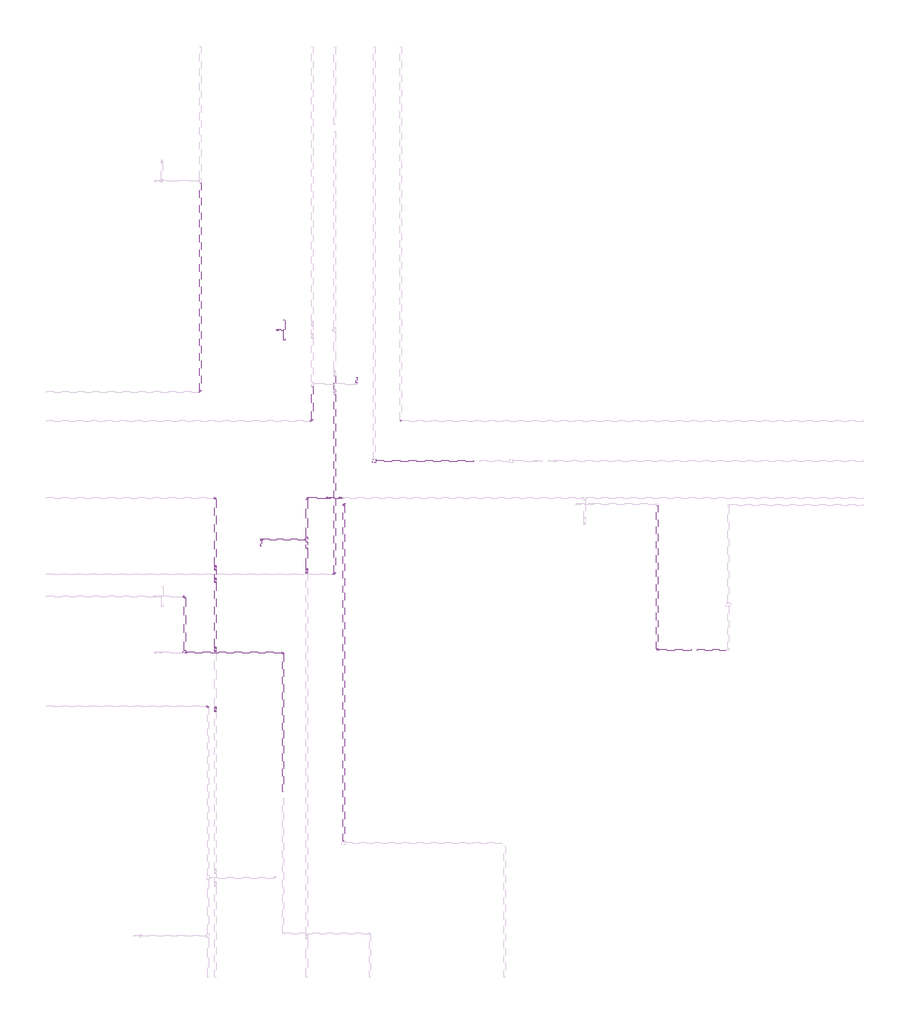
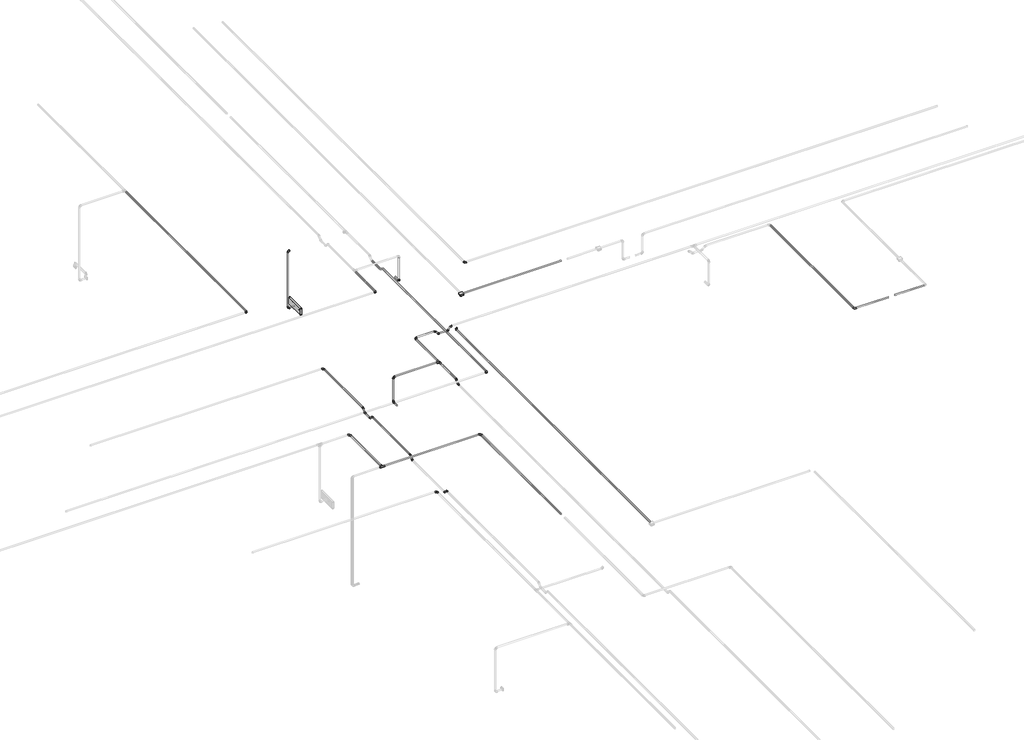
# One storey, part 24 of 40: 35 cable carrier segments, 32 cable carrier fittings, 2 alarms.
"""IFC4 building model written with IfcOpenShell, lengths in millimetres."""

from ifc_helpers import new_model, si_unit, point, frame, frame_2d, origin, place, context, project, spatial, circle_curve, trimmed, segment, composite_curve, outline, extrude, transform, mapped, element, save
from components import alarm_4b7e8fd8, alarm_a2247946, cable_carrier_fitting_69f1a801, cable_carrier_fitting_8122f9af, cable_carrier_fitting_60a48a8b, cable_carrier_fitting_8fd13dfc

model = new_model("IFC4")

# Units and contexts
model_context = context("Model", 3, world=origin())
ifc_project = project(units=[si_unit("LENGTHUNIT", "METRE", prefix="MILLI")], contexts=[model_context])

# Site, building, storey
site = spatial("IfcSite", under=ifc_project)
building = spatial("IfcBuilding", under=site)
storey = spatial("IfcBuildingStorey", under=building, Name="1 этаж", Elevation=0.0)

# Alarms
placement = place(None, origin())
alarm_shape = alarm_4b7e8fd8(model_context)
element("IfcAlarm", 1, ObjectType="RBZ_Оповещатель_Световой_Рубеж_ОПОП1-R3(грань) : ОПОП 1-R3 \"Выход\"", at=placement, inside=storey, context=model_context, shape_type="MappedRepresentation", body=[
    mapped(alarm_shape, transform((-14402.3240021, 7047.1370105, 2300.0), x_axis=(0.0, 1.0, 0.0), y_axis=(0.0, 0.0, 1.0), z_axis=(1.0, 0.0, 0.0))),
])
alarm_2_shape = alarm_a2247946(model_context)
element("IfcAlarm", 2, ObjectType="RBZ_ИзоляторШлейфа_Рубеж_ИЗ-1_прот.R3(плоскость) : ИЗ-1 прот.R3", at=placement, inside=storey, context=model_context, shape_type="MappedRepresentation", body=[
    mapped(alarm_2_shape, transform((-13072.3240021, 5122.1370105, 3200.05), x_axis=(1.0, 0.0, 0.0), y_axis=(0.0, 1.0, 0.0), z_axis=(0.0, 0.0, 1.0))),
])

# Cable carrier fittings
cable_carrier_fitting_shape = cable_carrier_fitting_69f1a801(model_context)
element("IfcCableCarrierFitting", 3, ObjectType="ADSK_Поворот_Минимальный размер : Неспецифицируемый", at=placement, inside=storey, context=model_context, shape_type="MappedRepresentation", body=[
    mapped(cable_carrier_fitting_shape, transform((-14409.8240021, 2314.6370105, 3189.2705868), x_axis=(0.0, 1.0, 0.0), y_axis=(-1.0, 0.0, 0.0), z_axis=(0.0, 0.0, 1.0))),
])
element("IfcCableCarrierFitting", 4, ObjectType="ADSK_Поворот_Минимальный размер : Неспецифицируемый", at=placement, inside=storey, context=model_context, shape_type="MappedRepresentation", body=[
    mapped(cable_carrier_fitting_shape, transform((-8918.8240021, 2348.1370105, 3190.0000856), x_axis=(0.0, -1.0, 0.0), y_axis=(1.0, 0.0, 0.0), z_axis=(0.0, 0.0, 1.0))),
])
element("IfcCableCarrierFitting", 5, ObjectType="ADSK_Поворот_Минимальный размер : Неспецифицируемый", at=placement, inside=storey, context=model_context, shape_type="MappedRepresentation", body=[
    mapped(cable_carrier_fitting_shape, transform((-15622.3240021, 6137.38701, 3187.0), x_axis=(1.0, 0.0, 0.0), y_axis=(0.0, 1.0, 0.0), z_axis=(0.0, 0.0, 1.0))),
])
element("IfcCableCarrierFitting", 6, ObjectType="ADSK_Поворот_Минимальный размер : Неспецифицируемый", at=placement, inside=storey, context=model_context, shape_type="MappedRepresentation", body=[
    mapped(cable_carrier_fitting_shape, transform((-13329.8240021, 6252.4372049, 2797.4861504), x_axis=(0.0, -1.0, 0.0), y_axis=(0.0, 0.0, 1.0), z_axis=(-1.0, 0.0, 0.0))),
])
element("IfcCableCarrierFitting", 7, ObjectType="ADSK_Поворот_Минимальный размер : Неспецифицируемый", at=placement, inside=storey, context=model_context, shape_type="MappedRepresentation", body=[
    mapped(cable_carrier_fitting_shape, transform((-12682.3240021, 5709.6370105, 3180.0), x_axis=(0.0, -1.0, 0.0), y_axis=(1.0, 0.0, 0.0), z_axis=(0.0, 0.0, 1.0))),
])
element("IfcCableCarrierFitting", 8, ObjectType="ADSK_Поворот_Минимальный размер : Неспецифицируемый", at=placement, inside=storey, context=model_context, shape_type="MappedRepresentation", body=[
    mapped(cable_carrier_fitting_shape, transform((-14499.5238077, 7047.1370105, 2300.0), x_axis=(-1.0, 0.0, 0.0), y_axis=(0.0, 0.0, 1.0), z_axis=(0.0, 1.0, 0.0))),
])
element("IfcCableCarrierFitting", 9, ObjectType="ADSK_Поворот_Минимальный размер : Неспецифицируемый", at=placement, inside=storey, context=model_context, shape_type="MappedRepresentation", body=[
    mapped(cable_carrier_fitting_shape, transform((-15852.3240021, 3137.1370105, 3189.2705868), x_axis=(0.0, 1.0, 0.0), y_axis=(-0.999999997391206, 0.0, 7.223287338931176e-05), z_axis=(7.223287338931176e-05, 0.0, 0.999999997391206))),
])
element("IfcCableCarrierFitting", 10, ObjectType="ADSK_Поворот_Минимальный размер : Неспецифицируемый", at=placement, inside=storey, context=model_context, shape_type="MappedRepresentation", body=[
    mapped(cable_carrier_fitting_shape, transform((-13652.3240113, 3462.1370308, 3189.3323031), x_axis=(1.0, 0.0, 0.0), y_axis=(0.0, 0.9999999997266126, 2.3383216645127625e-05), z_axis=(0.0, -2.3383216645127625e-05, 0.9999999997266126))),
])
element("IfcCableCarrierFitting", 11, ObjectType="ADSK_Поворот_Минимальный размер : Неспецифицируемый", at=placement, inside=storey, context=model_context, shape_type="MappedRepresentation", body=[
    mapped(cable_carrier_fitting_shape, transform((-13519.8240031, 4494.6370105, 3189.9998553), x_axis=(-0.9999999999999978, 0.0, -6.732492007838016e-08), y_axis=(0.0, -1.0, 0.0), z_axis=(-6.732492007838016e-08, 0.0, 0.9999999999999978))),
])
element("IfcCableCarrierFitting", 12, ObjectType="ADSK_Поворот_Минимальный размер : Неспецифицируемый", at=placement, inside=storey, context=model_context, shape_type="MappedRepresentation", body=[
    mapped(cable_carrier_fitting_shape, transform((-15509.3240021, 1524.6370105, 3166.0), x_axis=(0.0, 1.0, 0.0), y_axis=(-1.0, 0.0, 0.0), z_axis=(0.0, 0.0, 1.0))),
])
element("IfcCableCarrierFitting", 13, ObjectType="ADSK_Поворот_Минимальный размер : Неспецифицируемый", at=placement, inside=storey, context=model_context, shape_type="MappedRepresentation", body=[
    mapped(cable_carrier_fitting_shape, transform((-14732.3240021, 3971.8368161, 2797.4861504), x_axis=(0.0, 1.0, 0.0), y_axis=(0.0, 0.0, 1.0), z_axis=(1.0, 0.0, 0.0))),
])
element("IfcCableCarrierFitting", 14, ObjectType="ADSK_Поворот_Минимальный размер : Неспецифицируемый", at=placement, inside=storey, context=model_context, shape_type="MappedRepresentation", body=[
    mapped(cable_carrier_fitting_shape, transform((-14732.3240021, 3971.8368161, 3180.0), x_axis=(0.0, 0.0, 1.0), y_axis=(1.0, 0.0, 0.0), z_axis=(0.0, 1.0, 0.0))),
])
element("IfcCableCarrierFitting", 15, ObjectType="ADSK_Поворот_Минимальный размер : Неспецифицируемый", at=placement, inside=storey, context=model_context, shape_type="MappedRepresentation", body=[
    mapped(cable_carrier_fitting_shape, transform((-14061.8509929, 4582.0648158, 3180.0), x_axis=(-1.0, 0.0, 0.0), y_axis=(0.0, -1.0, 0.0), z_axis=(0.0, 0.0, 1.0))),
])
element("IfcCableCarrierFitting", 16, ObjectType="ADSK_Поворот_Минимальный размер : Неспецифицируемый", at=placement, inside=storey, context=model_context, shape_type="MappedRepresentation", body=[
    mapped(cable_carrier_fitting_shape, transform((-15402.3240021, 4582.0798551, 3180.0), x_axis=(0.0, 1.0, 0.0), y_axis=(-1.0, 0.0, 0.0), z_axis=(0.0, 0.0, 1.0))),
])
element("IfcCableCarrierFitting", 17, ObjectType="ADSK_Поворот_Минимальный размер : Неспецифицируемый", at=placement, inside=storey, context=model_context, shape_type="MappedRepresentation", body=[
    mapped(cable_carrier_fitting_shape, transform((-13982.3240021, 5709.6370105, 3180.0), x_axis=(1.0, 0.0, 0.0), y_axis=(0.0, 1.0, 0.0), z_axis=(0.0, 0.0, 1.0))),
])
cable_carrier_fitting_2_shape = cable_carrier_fitting_8122f9af(model_context)
element("IfcCableCarrierFitting", 18, ObjectType="ADSK_Поворот_Минимальный размер : Неспецифицируемый", at=placement, inside=storey, context=model_context, shape_type="MappedRepresentation", body=[
    mapped(cable_carrier_fitting_2_shape, transform((-15402.3240021, 1504.6370105, 3130.0), x_axis=(0.0, 0.7071067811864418, -0.7071067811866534), y_axis=(0.0, 0.7071067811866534, 0.7071067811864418), z_axis=(1.0, 0.0, 0.0))),
])
element("IfcCableCarrierFitting", 19, ObjectType="ADSK_Поворот_Минимальный размер : Неспецифицируемый", at=placement, inside=storey, context=model_context, shape_type="MappedRepresentation", body=[
    mapped(cable_carrier_fitting_2_shape, transform((-15402.3240021, 2334.6370105, 3130.0), x_axis=(0.0, 1.0, 0.0), y_axis=(0.0, 0.0, 1.0), z_axis=(1.0, 0.0, 0.0))),
])
element("IfcCableCarrierFitting", 20, ObjectType="ADSK_Поворот_Минимальный размер : Неспецифицируемый", at=placement, inside=storey, context=model_context, shape_type="MappedRepresentation", body=[
    mapped(cable_carrier_fitting_2_shape, transform((-15402.3240021, 2384.6370105, 3180.0), x_axis=(0.0, 0.7071067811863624, 0.7071067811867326), y_axis=(0.0, 0.7071067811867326, -0.7071067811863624), z_axis=(-1.0, 0.0, 0.0))),
])
element("IfcCableCarrierFitting", 21, ObjectType="ADSK_Поворот_Минимальный размер : Неспецифицируемый", at=placement, inside=storey, context=model_context, shape_type="MappedRepresentation", body=[
    mapped(cable_carrier_fitting_2_shape, transform((-15402.3240021, 3345.5647595, 3180.0), x_axis=(0.0, 1.0, 0.0), y_axis=(0.0, 0.0, -1.0), z_axis=(-1.0, 0.0, 0.0))),
])
element("IfcCableCarrierFitting", 22, ObjectType="ADSK_Поворот_Минимальный размер : Неспецифицируемый", at=placement, inside=storey, context=model_context, shape_type="MappedRepresentation", body=[
    mapped(cable_carrier_fitting_2_shape, transform((-15402.3240021, 3395.5647595, 3130.0), x_axis=(0.0, 0.7071067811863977, -0.7071067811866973), y_axis=(0.0, 0.7071067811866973, 0.7071067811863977), z_axis=(1.0, 0.0, 0.0))),
])
element("IfcCableCarrierFitting", 23, ObjectType="ADSK_Поворот_Минимальный размер : Неспецифицируемый", at=placement, inside=storey, context=model_context, shape_type="MappedRepresentation", body=[
    mapped(cable_carrier_fitting_2_shape, transform((-15402.3240021, 3528.709302, 3130.0), x_axis=(0.0, 1.0, 0.0), y_axis=(0.0, 0.0, 1.0), z_axis=(1.0, 0.0, 0.0))),
])
element("IfcCableCarrierFitting", 24, ObjectType="ADSK_Поворот_Минимальный размер : Неспецифицируемый", at=placement, inside=storey, context=model_context, shape_type="MappedRepresentation", body=[
    mapped(cable_carrier_fitting_2_shape, transform((-13535.75174, 4582.0648158, 3180.0), x_axis=(-1.0, 0.0, 0.0), y_axis=(0.0, 0.0, -1.0), z_axis=(0.0, -1.0, 0.0))),
])
element("IfcCableCarrierFitting", 25, ObjectType="ADSK_Поворот_Минимальный размер : Неспецифицируемый", at=placement, inside=storey, context=model_context, shape_type="MappedRepresentation", body=[
    mapped(cable_carrier_fitting_2_shape, transform((-13585.75174, 4582.0648158, 3130.0), x_axis=(-0.7071067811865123, 0.0, -0.7071067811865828), y_axis=(-0.7071067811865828, 0.0, 0.7071067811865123), z_axis=(0.0, 1.0, 0.0))),
])
element("IfcCableCarrierFitting", 26, ObjectType="ADSK_Поворот_Минимальный размер : Неспецифицируемый", at=placement, inside=storey, context=model_context, shape_type="MappedRepresentation", body=[
    mapped(cable_carrier_fitting_2_shape, transform((-13718.8962825, 4582.0648158, 3130.0), x_axis=(-1.0, 0.0, 0.0), y_axis=(0.0, 0.0, 1.0), z_axis=(0.0, 1.0, 0.0))),
])
element("IfcCableCarrierFitting", 27, ObjectType="ADSK_Поворот_Минимальный размер : Неспецифицируемый", at=placement, inside=storey, context=model_context, shape_type="MappedRepresentation", body=[
    mapped(cable_carrier_fitting_2_shape, transform((-15402.3240021, 1454.6370105, 3180.0), x_axis=(0.0, -0.7071067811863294, 0.7071067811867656), y_axis=(0.0, -0.7071067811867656, -0.7071067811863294), z_axis=(1.0, 0.0, 0.0))),
])
element("IfcCableCarrierFitting", 28, ObjectType="ADSK_Поворот_Минимальный размер : Неспецифицируемый", at=placement, inside=storey, context=model_context, shape_type="MappedRepresentation", body=[
    mapped(cable_carrier_fitting_2_shape, transform((-14061.8509929, 3532.1370308, 3180.0), x_axis=(0.0, -1.0, 0.0), y_axis=(0.0, 0.0, -1.0), z_axis=(1.0, 0.0, 0.0))),
])
element("IfcCableCarrierFitting", 29, ObjectType="ADSK_Поворот_Минимальный размер : Неспецифицируемый", at=placement, inside=storey, context=model_context, shape_type="MappedRepresentation", body=[
    mapped(cable_carrier_fitting_2_shape, transform((-14061.8509929, 3482.1370308, 3130.0), x_axis=(0.0, -0.7071067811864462, -0.7071067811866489), y_axis=(0.0, -0.7071067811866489, 0.7071067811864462), z_axis=(-1.0, 0.0, 0.0))),
])
element("IfcCableCarrierFitting", 30, ObjectType="ADSK_Поворот_Минимальный размер : Неспецифицируемый", at=placement, inside=storey, context=model_context, shape_type="MappedRepresentation", body=[
    mapped(cable_carrier_fitting_2_shape, transform((-13768.8962825, 4582.0648158, 3180.0), x_axis=(-0.7071067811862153, 0.0, 0.7071067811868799), y_axis=(-0.7071067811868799, 0.0, -0.7071067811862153), z_axis=(0.0, -1.0, 0.0))),
])
element("IfcCableCarrierFitting", 31, ObjectType="ADSK_Поворот_Минимальный размер : Неспецифицируемый", at=placement, inside=storey, context=model_context, shape_type="MappedRepresentation", body=[
    mapped(cable_carrier_fitting_2_shape, transform((-15402.3240021, 3578.709302, 3180.0), x_axis=(0.0, 0.707106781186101, 0.7071067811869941), y_axis=(0.0, 0.7071067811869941, -0.707106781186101), z_axis=(-1.0, 0.0, 0.0))),
])
cable_carrier_fitting_3_shape = cable_carrier_fitting_60a48a8b(model_context)
element("IfcCableCarrierFitting", 32, ObjectType="ADSK_Поворот_Минимальный размер : Неспецифицируемый", at=placement, inside=storey, context=model_context, shape_type="MappedRepresentation", body=[
    mapped(cable_carrier_fitting_3_shape, transform((-14499.5238077, 7047.1370105, 3189.2999743), x_axis=(0.0, 0.0, 1.0), y_axis=(0.9999999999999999, 2.191917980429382e-08, 0.0), z_axis=(-2.191917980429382e-08, 0.9999999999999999, 0.0))),
])
cable_carrier_fitting_4_shape = cable_carrier_fitting_8fd13dfc(model_context)
element("IfcCableCarrierFitting", 33, ObjectType="ADSK_Тройник : ПВХ", at=placement, inside=storey, context=model_context, shape_type="MappedRepresentation", body=[
    mapped(cable_carrier_fitting_4_shape, transform((-15852.3240021, 2314.6370105, 3189.2705868), x_axis=(-1.0, 0.0, 0.0), y_axis=(0.0, -1.0, 0.0), z_axis=(0.0, 0.0, 1.0))),
])
element("IfcCableCarrierFitting", 34, ObjectType="ADSK_Тройник : ПВХ", at=placement, inside=storey, context=model_context, shape_type="MappedRepresentation", body=[
    mapped(cable_carrier_fitting_4_shape, transform((-14061.8509929, 3971.8368551, 3180.0), x_axis=(0.0, -1.0, 0.0), y_axis=(1.0, 0.0, 0.0), z_axis=(0.0, 0.0, 1.0))),
])

# Cable carrier segments
element("IfcCableCarrierSegment", 35, ObjectType="Гофрированная труба", at=placement, inside=storey, context=model_context, shape_type="SweptSolid", body=[
    extrude(outline(composite_curve([segment(trimmed(circle_curve(frame_2d((3189.2705868, -14409.8240021)), 10.0), [point((3189.2705868, -14399.8240021))], [point((3199.2705868, -14409.8240021))], False, "CARTESIAN"), True, "CONTINUOUS"), segment(trimmed(circle_curve(frame_2d((3189.2705868, -14409.8240021)), 10.0), [point((3199.2705868, -14409.8240021))], [point((3189.2705868, -14419.8240021))], False, "CARTESIAN"), True, "CONTINUOUS"), segment(trimmed(circle_curve(frame_2d((3189.2705868, -14409.8240021)), 10.0), [point((3189.2705868, -14419.8240021))], [point((3179.2705868, -14409.8240021))], False, "CARTESIAN"), True, "CONTINUOUS"), segment(trimmed(circle_curve(frame_2d((3189.2705868, -14409.8240021)), 10.0), [point((3179.2705868, -14409.8240021))], [point((3189.2705868, -14399.8240021))], False, "CARTESIAN"), True, "CONTINUOUS")], self_intersect=False)), frame((0.0, 271.1370105, 0.0), z_axis=(0.0, 1.0, 0.0), x_axis=(0.0, 0.0, 1.0)), (0.0, 0.0, 1.0), 2022.5),
])
element("IfcCableCarrierSegment", 36, ObjectType="Гофрированная труба", at=placement, inside=storey, context=model_context, shape_type="SweptSolid", body=[
    extrude(outline(composite_curve([segment(trimmed(circle_curve(frame_2d((2314.6370105, 3189.2705868)), 10.0), [point((2324.6370105, 3189.2705868))], [point((2314.6370105, 3179.2705868))], False, "CARTESIAN"), True, "CONTINUOUS"), segment(trimmed(circle_curve(frame_2d((2314.6370105, 3189.2705868)), 10.0), [point((2314.6370105, 3179.2705868))], [point((2304.6370105, 3189.2705868))], False, "CARTESIAN"), True, "CONTINUOUS"), segment(trimmed(circle_curve(frame_2d((2314.6370105, 3189.2705868)), 10.0), [point((2304.6370105, 3189.2705868))], [point((2314.6370105, 3199.2705868))], False, "CARTESIAN"), True, "CONTINUOUS"), segment(trimmed(circle_curve(frame_2d((2314.6370105, 3189.2705868)), 10.0), [point((2314.6370105, 3199.2705868))], [point((2324.6370105, 3189.2705868))], False, "CARTESIAN"), True, "CONTINUOUS")], self_intersect=False)), frame((-15822.3240021, 0.0, 0.0), z_axis=(1.0, 0.0, 0.0), x_axis=(0.0, 1.0, 0.0)), (0.0, 0.0, 1.0), 1391.5),
])
element("IfcCableCarrierSegment", 37, ObjectType="Гофрированная труба", at=placement, inside=storey, context=model_context, shape_type="SweptSolid", body=[
    extrude(outline(composite_curve([segment(trimmed(circle_curve(frame_2d((3189.2705868, -15852.3240021)), 10.0), [point((3189.2705868, -15862.3240021))], [point((3179.2705868, -15852.3240021))], False, "CARTESIAN"), True, "CONTINUOUS"), segment(trimmed(circle_curve(frame_2d((3189.2705868, -15852.3240021)), 10.0), [point((3179.2705868, -15852.3240021))], [point((3189.2705868, -15842.3240021))], False, "CARTESIAN"), True, "CONTINUOUS"), segment(trimmed(circle_curve(frame_2d((3189.2705868, -15852.3240021)), 10.0), [point((3189.2705868, -15842.3240021))], [point((3199.2705868, -15852.3240021))], False, "CARTESIAN"), True, "CONTINUOUS"), segment(trimmed(circle_curve(frame_2d((3189.2705868, -15852.3240021)), 10.0), [point((3199.2705868, -15852.3240021))], [point((3189.2705868, -15862.3240021))], False, "CARTESIAN"), True, "CONTINUOUS")], self_intersect=False)), frame((0.0, 2344.6370105, 0.0), z_axis=(0.0, 1.0, 0.0), x_axis=(0.0, 0.0, 1.0)), (0.0, 0.0, 1.0), 771.5),
])
element("IfcCableCarrierSegment", 38, ObjectType="Гофрированная труба", at=placement, inside=storey, context=model_context, shape_type="SweptSolid", body=[
    extrude(outline(composite_curve([segment(trimmed(circle_curve(frame_2d((3189.9998553, -13519.8240031)), 10.0), [point((3189.9998553, -13529.8240031))], [point((3179.9998553, -13519.8240031))], False, "CARTESIAN"), True, "CONTINUOUS"), segment(trimmed(circle_curve(frame_2d((3189.9998553, -13519.8240031)), 10.0), [point((3179.9998553, -13519.8240031))], [point((3189.9998553, -13509.8240031))], False, "CARTESIAN"), True, "CONTINUOUS"), segment(trimmed(circle_curve(frame_2d((3189.9998553, -13519.8240031)), 10.0), [point((3189.9998553, -13509.8240031))], [point((3199.9998553, -13519.8240031))], False, "CARTESIAN"), True, "CONTINUOUS"), segment(trimmed(circle_curve(frame_2d((3189.9998553, -13519.8240031)), 10.0), [point((3199.9998553, -13519.8240031))], [point((3189.9998553, -13529.8240031))], False, "CARTESIAN"), True, "CONTINUOUS")], self_intersect=False)), frame((0.0, -454.3629895, 0.0), z_axis=(0.0, 1.0, 0.0), x_axis=(0.0, 0.0, 1.0)), (0.0, 0.0, 1.0), 4928.0),
])
element("IfcCableCarrierSegment", 39, ObjectType="Гофрированная труба", at=placement, inside=storey, context=model_context, shape_type="SweptSolid", body=[
    extrude(outline(composite_curve([segment(trimmed(circle_curve(frame_2d((0.0, -10.0)), 10.0), [point((0.0, -20.0))], [point((-10.0000001, -10.0))], False, "CARTESIAN"), True, "CONTINUOUS"), segment(trimmed(circle_curve(frame_2d((0.0, -10.0)), 10.0), [point((-10.0000001, -10.0))], [point((0.0, 0.0))], False, "CARTESIAN"), True, "CONTINUOUS"), segment(trimmed(circle_curve(frame_2d((0.0, -10.0)), 10.0), [point((0.0, 0.0))], [point((10.0, -10.0))], False, "CARTESIAN"), True, "CONTINUOUS"), segment(trimmed(circle_curve(frame_2d((0.0, -10.0)), 10.0), [point((10.0, -10.0))], [point((0.0, -20.0))], False, "CARTESIAN"), True, "CONTINUOUS")], self_intersect=False)), frame((-13662.3240113, 6376.4323701, 3139.5699368), z_axis=(0.0, -0.999998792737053, 0.0015538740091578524), x_axis=(0.0, 0.0015538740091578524, 0.999998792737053)), (0.0, 0.0, 1.0), 204.0853758),
])
element("IfcCableCarrierSegment", 40, ObjectType="Гофрированная труба", at=placement, inside=storey, context=model_context, shape_type="SweptSolid", body=[
    extrude(outline(composite_curve([segment(trimmed(circle_curve(frame_2d((2348.1370105, 3190.0000856)), 10.0), [point((2358.1370105, 3190.0000856))], [point((2348.1370105, 3180.0000856))], False, "CARTESIAN"), True, "CONTINUOUS"), segment(trimmed(circle_curve(frame_2d((2348.1370105, 3190.0000856)), 10.0), [point((2348.1370105, 3180.0000856))], [point((2338.1370105, 3190.0000856))], False, "CARTESIAN"), True, "CONTINUOUS"), segment(trimmed(circle_curve(frame_2d((2348.1370105, 3190.0000856)), 10.0), [point((2338.1370105, 3190.0000856))], [point((2348.1370105, 3200.0000856))], False, "CARTESIAN"), True, "CONTINUOUS"), segment(trimmed(circle_curve(frame_2d((2348.1370105, 3190.0000856)), 10.0), [point((2348.1370105, 3200.0000856))], [point((2358.1370105, 3190.0000856))], False, "CARTESIAN"), True, "CONTINUOUS")], self_intersect=False)), frame((-8897.8240021, 0.0, 0.0), z_axis=(1.0, 0.0, 0.0), x_axis=(0.0, 1.0, 0.0)), (0.0, 0.0, 1.0), 479.0),
])
element("IfcCableCarrierSegment", 41, ObjectType="Гофрированная труба", at=placement, inside=storey, context=model_context, shape_type="SweptSolid", body=[
    extrude(outline(composite_curve([segment(trimmed(circle_curve(frame_2d((3190.0000856, -8918.8240021)), 10.0), [point((3190.0000856, -8908.8240021))], [point((3200.0000856, -8918.8240021))], False, "CARTESIAN"), True, "CONTINUOUS"), segment(trimmed(circle_curve(frame_2d((3190.0000856, -8918.8240021)), 10.0), [point((3200.0000856, -8918.8240021))], [point((3190.0000856, -8928.8240021))], False, "CARTESIAN"), True, "CONTINUOUS"), segment(trimmed(circle_curve(frame_2d((3190.0000856, -8918.8240021)), 10.0), [point((3190.0000856, -8928.8240021))], [point((3180.0000856, -8918.8240021))], False, "CARTESIAN"), True, "CONTINUOUS"), segment(trimmed(circle_curve(frame_2d((3190.0000856, -8918.8240021)), 10.0), [point((3180.0000856, -8918.8240021))], [point((3190.0000856, -8908.8240021))], False, "CARTESIAN"), True, "CONTINUOUS")], self_intersect=False)), frame((0.0, 2369.1370105, 0.0), z_axis=(0.0, 1.0, 0.0), x_axis=(0.0, 0.0, 1.0)), (0.0, 0.0, 1.0), 2104.5),
])
element("IfcCableCarrierSegment", 42, ObjectType="Гофрированная труба", at=placement, inside=storey, context=model_context, shape_type="SweptSolid", body=[
    extrude(outline(composite_curve([segment(trimmed(circle_curve(frame_2d((2348.1370105, 3190.0000856)), 10.0), [point((2338.1370105, 3190.0000856))], [point((2348.1370105, 3200.0000856))], False, "CARTESIAN"), True, "CONTINUOUS"), segment(trimmed(circle_curve(frame_2d((2348.1370105, 3190.0000856)), 10.0), [point((2348.1370105, 3200.0000856))], [point((2358.1370105, 3190.0000856))], False, "CARTESIAN"), True, "CONTINUOUS"), segment(trimmed(circle_curve(frame_2d((2348.1370105, 3190.0000856)), 10.0), [point((2358.1370105, 3190.0000856))], [point((2348.1370105, 3180.0000856))], False, "CARTESIAN"), True, "CONTINUOUS"), segment(trimmed(circle_curve(frame_2d((2348.1370105, 3190.0000856)), 10.0), [point((2348.1370105, 3180.0000856))], [point((2338.1370105, 3190.0000856))], False, "CARTESIAN"), True, "CONTINUOUS")], self_intersect=False)), frame((-8325.8240021, 0.0, 0.0), z_axis=(1.0, 0.0, 0.0), x_axis=(0.0, 1.0, 0.0)), (0.0, 0.0, 1.0), 432.4999035),
])
element("IfcCableCarrierSegment", 43, ObjectType="Гофрированная труба", at=placement, inside=storey, context=model_context, shape_type="SweptSolid", body=[
    extrude(outline(composite_curve([segment(trimmed(circle_curve(frame_2d((5122.1370105, 3189.3)), 10.0), [point((5132.1370105, 3189.3))], [point((5122.1370105, 3179.3))], False, "CARTESIAN"), True, "CONTINUOUS"), segment(trimmed(circle_curve(frame_2d((5122.1370105, 3189.3)), 10.0), [point((5122.1370105, 3179.3))], [point((5112.1370105, 3189.3))], False, "CARTESIAN"), True, "CONTINUOUS"), segment(trimmed(circle_curve(frame_2d((5122.1370105, 3189.3)), 10.0), [point((5112.1370105, 3189.3))], [point((5122.1370105, 3199.3))], False, "CARTESIAN"), True, "CONTINUOUS"), segment(trimmed(circle_curve(frame_2d((5122.1370105, 3189.3)), 10.0), [point((5122.1370105, 3199.3))], [point((5132.1370105, 3189.3))], False, "CARTESIAN"), True, "CONTINUOUS")], self_intersect=False)), frame((-13046.3240021, 0.0, 0.0), z_axis=(1.0, 0.0, 0.0), x_axis=(0.0, 1.0, 0.0)), (0.0, 0.0, 1.0), 1435.0),
])
element("IfcCableCarrierSegment", 44, ObjectType="Гофрированная труба", at=placement, inside=storey, context=model_context, shape_type="SweptSolid", body=[
    extrude(outline(composite_curve([segment(trimmed(circle_curve(frame_2d((2797.4861504, -13329.8240021)), 10.0), [point((2797.4861504, -13339.8240021))], [point((2787.4861504, -13329.8240021))], False, "CARTESIAN"), True, "CONTINUOUS"), segment(trimmed(circle_curve(frame_2d((2797.4861504, -13329.8240021)), 10.0), [point((2787.4861504, -13329.8240021))], [point((2797.4861504, -13319.8240021))], False, "CARTESIAN"), True, "CONTINUOUS"), segment(trimmed(circle_curve(frame_2d((2797.4861504, -13329.8240021)), 10.0), [point((2797.4861504, -13319.8240021))], [point((2807.4861504, -13329.8240021))], False, "CARTESIAN"), True, "CONTINUOUS"), segment(trimmed(circle_curve(frame_2d((2797.4861504, -13329.8240021)), 10.0), [point((2807.4861504, -13329.8240021))], [point((2797.4861504, -13339.8240021))], False, "CARTESIAN"), True, "CONTINUOUS")], self_intersect=False)), frame((0.0, 6273.4372049, 0.0), z_axis=(0.0, 1.0, 0.0), x_axis=(0.0, 0.0, 1.0)), (0.0, 0.0, 1.0), 76.1998056),
])
element("IfcCableCarrierSegment", 45, ObjectType="Гофрированная труба", at=placement, inside=storey, context=model_context, shape_type="SweptSolid", body=[
    extrude(outline(composite_curve([segment(trimmed(circle_curve(frame_2d((-13329.8240021, 6252.4372049)), 10.0), [point((-13339.8240021, 6252.4372049))], [point((-13329.8240021, 6262.4372049))], False, "CARTESIAN"), True, "CONTINUOUS"), segment(trimmed(circle_curve(frame_2d((-13329.8240021, 6252.4372049)), 10.0), [point((-13329.8240021, 6262.4372049))], [point((-13319.8240021, 6252.4372049))], False, "CARTESIAN"), True, "CONTINUOUS"), segment(trimmed(circle_curve(frame_2d((-13329.8240021, 6252.4372049)), 10.0), [point((-13319.8240021, 6252.4372049))], [point((-13329.8240021, 6242.4372049))], False, "CARTESIAN"), True, "CONTINUOUS"), segment(trimmed(circle_curve(frame_2d((-13329.8240021, 6252.4372049)), 10.0), [point((-13329.8240021, 6242.4372049))], [point((-13339.8240021, 6252.4372049))], False, "CARTESIAN"), True, "CONTINUOUS")], self_intersect=False)), frame((0.0, 0.0, 2818.4861504), z_axis=(0.0, 0.0, 1.0), x_axis=(1.0, 0.0, 0.0)), (0.0, 0.0, 1.0), 340.5138496),
])
element("IfcCableCarrierSegment", 46, ObjectType="Гофрированная труба", at=placement, inside=storey, context=model_context, shape_type="SweptSolid", body=[
    extrude(outline(composite_curve([segment(trimmed(circle_curve(frame_2d((0.0, -10.0)), 10.0), [point((0.0, 0.0))], [point((10.0, -10.0))], False, "CARTESIAN"), True, "CONTINUOUS"), segment(trimmed(circle_curve(frame_2d((0.0, -10.0)), 10.0), [point((10.0, -10.0))], [point((0.0, -20.0))], False, "CARTESIAN"), True, "CONTINUOUS"), segment(trimmed(circle_curve(frame_2d((0.0, -10.0)), 10.0), [point((0.0, -20.0))], [point((-10.0, -10.0))], False, "CARTESIAN"), True, "CONTINUOUS"), segment(trimmed(circle_curve(frame_2d((0.0, -10.0)), 10.0), [point((-10.0, -10.0))], [point((0.0, 0.0))], False, "CARTESIAN"), True, "CONTINUOUS")], self_intersect=False)), frame((-13662.3240113, 3483.1370307, 3189.3327942), z_axis=(0.0, 0.9999999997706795, 2.141590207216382e-05), x_axis=(0.0, 2.141590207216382e-05, -0.9999999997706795)), (0.0, 0.0, 1.0), 2621.1719162),
])
element("IfcCableCarrierSegment", 47, ObjectType="Гофрированная труба", at=placement, inside=storey, context=model_context, shape_type="SweptSolid", body=[
    extrude(outline(composite_curve([segment(trimmed(circle_curve(frame_2d((0.0, -10.0)), 10.0), [point((10.0, -10.0))], [point((0.0, -20.0))], False, "CARTESIAN"), True, "CONTINUOUS"), segment(trimmed(circle_curve(frame_2d((0.0, -10.0)), 10.0), [point((0.0, -20.0))], [point((-10.0, -10.0))], False, "CARTESIAN"), True, "CONTINUOUS"), segment(trimmed(circle_curve(frame_2d((0.0, -10.0)), 10.0), [point((-10.0, -10.0))], [point((0.0, 0.0))], False, "CARTESIAN"), True, "CONTINUOUS"), segment(trimmed(circle_curve(frame_2d((0.0, -10.0)), 10.0), [point((0.0, 0.0))], [point((10.0, -10.0))], False, "CARTESIAN"), True, "CONTINUOUS")], self_intersect=False)), frame((-13652.3240113, 6163.6001448, 3153.5246284), z_axis=(0.0, -0.707106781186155, 0.7071067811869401), x_axis=(1.0, 0.0, 0.0)), (0.0, 0.0, 1.0), 51.435542),
])
element("IfcCableCarrierSegment", 48, ObjectType="Гофрированная труба", at=placement, inside=storey, context=model_context, shape_type="SweptSolid", body=[
    extrude(outline(composite_curve([segment(trimmed(circle_curve(frame_2d((4582.0648158, 3130.0)), 10.0), [point((4592.0648158, 3130.0))], [point((4582.0648158, 3120.0))], False, "CARTESIAN"), True, "CONTINUOUS"), segment(trimmed(circle_curve(frame_2d((4582.0648158, 3130.0)), 10.0), [point((4582.0648158, 3120.0))], [point((4572.0648158, 3130.0))], False, "CARTESIAN"), True, "CONTINUOUS"), segment(trimmed(circle_curve(frame_2d((4582.0648158, 3130.0)), 10.0), [point((4572.0648158, 3130.0))], [point((4582.0648158, 3140.0))], False, "CARTESIAN"), True, "CONTINUOUS"), segment(trimmed(circle_curve(frame_2d((4582.0648158, 3130.0)), 10.0), [point((4582.0648158, 3140.0))], [point((4592.0648158, 3130.0))], False, "CARTESIAN"), True, "CONTINUOUS")], self_intersect=False)), frame((-13709.6120113, 0.0, 0.0), z_axis=(1.0, 0.0, 0.0), x_axis=(0.0, 1.0, 0.0)), (0.0, 0.0, 1.0), 114.576),
])
element("IfcCableCarrierSegment", 49, ObjectType="Гофрированная труба", at=placement, inside=storey, context=model_context, shape_type="SweptSolid", body=[
    extrude(outline(composite_curve([segment(trimmed(circle_curve(frame_2d((0.0, -10.0)), 10.0), [point((10.0, -10.0))], [point((0.0, -20.0))], False, "CARTESIAN"), True, "CONTINUOUS"), segment(trimmed(circle_curve(frame_2d((0.0, -10.0)), 10.0), [point((0.0, -20.0))], [point((-10.0, -10.0))], False, "CARTESIAN"), True, "CONTINUOUS"), segment(trimmed(circle_curve(frame_2d((0.0, -10.0)), 10.0), [point((-10.0, -10.0))], [point((0.0, 0.0))], False, "CARTESIAN"), True, "CONTINUOUS"), segment(trimmed(circle_curve(frame_2d((0.0, -10.0)), 10.0), [point((0.0, 0.0))], [point((10.0, -10.0))], False, "CARTESIAN"), True, "CONTINUOUS")], self_intersect=False)), frame((-15402.3240021, 1505.1431072, 3143.636039), z_axis=(0.0, -0.7071067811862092, 0.707106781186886), x_axis=(1.0, 0.0, 0.0)), (0.0, 0.0, 1.0), 52.1421356),
])
element("IfcCableCarrierSegment", 50, ObjectType="Гофрированная труба", at=placement, inside=storey, context=model_context, shape_type="SweptSolid", body=[
    extrude(outline(composite_curve([segment(trimmed(circle_curve(frame_2d((3130.0, -15402.3240021)), 10.0), [point((3130.0, -15392.3240021))], [point((3140.0, -15402.3240021))], False, "CARTESIAN"), True, "CONTINUOUS"), segment(trimmed(circle_curve(frame_2d((3130.0, -15402.3240021)), 10.0), [point((3140.0, -15402.3240021))], [point((3130.0, -15412.3240021))], False, "CARTESIAN"), True, "CONTINUOUS"), segment(trimmed(circle_curve(frame_2d((3130.0, -15402.3240021)), 10.0), [point((3130.0, -15412.3240021))], [point((3120.0, -15402.3240021))], False, "CARTESIAN"), True, "CONTINUOUS"), segment(trimmed(circle_curve(frame_2d((3130.0, -15402.3240021)), 10.0), [point((3120.0, -15402.3240021))], [point((3130.0, -15392.3240021))], False, "CARTESIAN"), True, "CONTINUOUS")], self_intersect=False)), frame((0.0, 3404.8490308, 0.0), z_axis=(0.0, 1.0, 0.0), x_axis=(0.0, 0.0, 1.0)), (0.0, 0.0, 1.0), 114.576),
])
element("IfcCableCarrierSegment", 51, ObjectType="Гофрированная труба", at=placement, inside=storey, context=model_context, shape_type="SweptSolid", body=[
    extrude(outline(composite_curve([segment(trimmed(circle_curve(frame_2d((0.0, 10.0)), 10.0), [point((10.0, 10.0))], [point((0.0, 0.0))], False, "CARTESIAN"), True, "CONTINUOUS"), segment(trimmed(circle_curve(frame_2d((0.0, 10.0)), 10.0), [point((0.0, 0.0))], [point((-10.0, 10.0))], False, "CARTESIAN"), True, "CONTINUOUS"), segment(trimmed(circle_curve(frame_2d((0.0, 10.0)), 10.0), [point((-10.0, 10.0))], [point((0.0, 20.0))], False, "CARTESIAN"), True, "CONTINUOUS"), segment(trimmed(circle_curve(frame_2d((0.0, 10.0)), 10.0), [point((0.0, 20.0))], [point((10.0, 10.0))], False, "CARTESIAN"), True, "CONTINUOUS")], self_intersect=False)), frame((-15402.3240021, 2334.1309139, 3143.636039), z_axis=(0.0, 0.7071067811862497, 0.7071067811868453), x_axis=(1.0, 0.0, 0.0)), (0.0, 0.0, 1.0), 52.1421356),
])
element("IfcCableCarrierSegment", 52, ObjectType="Гофрированная труба", at=placement, inside=storey, context=model_context, shape_type="SweptSolid", body=[
    extrude(outline(composite_curve([segment(trimmed(circle_curve(frame_2d((3180.0, -15402.3240021)), 10.0), [point((3180.0, -15392.3240021))], [point((3190.0, -15402.3240021))], False, "CARTESIAN"), True, "CONTINUOUS"), segment(trimmed(circle_curve(frame_2d((3180.0, -15402.3240021)), 10.0), [point((3190.0, -15402.3240021))], [point((3180.0, -15412.3240021))], False, "CARTESIAN"), True, "CONTINUOUS"), segment(trimmed(circle_curve(frame_2d((3180.0, -15402.3240021)), 10.0), [point((3180.0, -15412.3240021))], [point((3170.0, -15402.3240021))], False, "CARTESIAN"), True, "CONTINUOUS"), segment(trimmed(circle_curve(frame_2d((3180.0, -15402.3240021)), 10.0), [point((3170.0, -15402.3240021))], [point((3180.0, -15392.3240021))], False, "CARTESIAN"), True, "CONTINUOUS")], self_intersect=False)), frame((0.0, 2393.9212818, 0.0), z_axis=(0.0, 1.0, 0.0), x_axis=(0.0, 0.0, 1.0)), (0.0, 0.0, 1.0), 942.3592065),
])
element("IfcCableCarrierSegment", 53, ObjectType="Гофрированная труба", at=placement, inside=storey, context=model_context, shape_type="SweptSolid", body=[
    extrude(outline(composite_curve([segment(trimmed(circle_curve(frame_2d((0.0, -10.0000001)), 10.0), [point((10.0, -10.0000001))], [point((0.0, -20.0000001))], False, "CARTESIAN"), True, "CONTINUOUS"), segment(trimmed(circle_curve(frame_2d((0.0, -10.0000001)), 10.0), [point((0.0, -20.0000001))], [point((-10.0, -10.0000001))], False, "CARTESIAN"), True, "CONTINUOUS"), segment(trimmed(circle_curve(frame_2d((0.0, -10.0000001)), 10.0), [point((-10.0, -10.0000001))], [point((0.0, 0.0))], False, "CARTESIAN"), True, "CONTINUOUS"), segment(trimmed(circle_curve(frame_2d((0.0, -10.0000001)), 10.0), [point((0.0, 0.0))], [point((10.0, -10.0000001))], False, "CARTESIAN"), True, "CONTINUOUS")], self_intersect=False)), frame((-15402.3240021, 3396.0708562, 3143.636039), z_axis=(0.0, -0.7071067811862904, 0.7071067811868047), x_axis=(1.0, 0.0, 0.0)), (0.0, 0.0, 1.0), 52.1421356),
])
element("IfcCableCarrierSegment", 54, ObjectType="Гофрированная труба", at=placement, inside=storey, context=model_context, shape_type="SweptSolid", body=[
    extrude(outline(composite_curve([segment(trimmed(circle_curve(frame_2d((3180.0, -15402.3240021)), 10.0), [point((3180.0, -15392.3240021))], [point((3190.0, -15402.3240021))], False, "CARTESIAN"), True, "CONTINUOUS"), segment(trimmed(circle_curve(frame_2d((3180.0, -15402.3240021)), 10.0), [point((3190.0, -15402.3240021))], [point((3180.0, -15412.3240021))], False, "CARTESIAN"), True, "CONTINUOUS"), segment(trimmed(circle_curve(frame_2d((3180.0, -15402.3240021)), 10.0), [point((3180.0, -15412.3240021))], [point((3170.0, -15402.3240021))], False, "CARTESIAN"), True, "CONTINUOUS"), segment(trimmed(circle_curve(frame_2d((3180.0, -15402.3240021)), 10.0), [point((3170.0, -15402.3240021))], [point((3180.0, -15392.3240021))], False, "CARTESIAN"), True, "CONTINUOUS")], self_intersect=False)), frame((0.0, 3587.9935732, 0.0), z_axis=(0.0, 1.0, 0.0), x_axis=(0.0, 0.0, 1.0)), (0.0, 0.0, 1.0), 973.0862818),
])
element("IfcCableCarrierSegment", 55, ObjectType="Гофрированная труба", at=placement, inside=storey, context=model_context, shape_type="SweptSolid", body=[
    extrude(outline(composite_curve([segment(trimmed(circle_curve(frame_2d((0.0, 10.0000001)), 10.0), [point((10.0, 10.0000001))], [point((0.0, 0.0))], False, "CARTESIAN"), True, "CONTINUOUS"), segment(trimmed(circle_curve(frame_2d((0.0, 10.0000001)), 10.0), [point((0.0, 0.0))], [point((-10.0, 10.0000001))], False, "CARTESIAN"), True, "CONTINUOUS"), segment(trimmed(circle_curve(frame_2d((0.0, 10.0000001)), 10.0), [point((-10.0, 10.0000001))], [point((0.0, 20.0000001))], False, "CARTESIAN"), True, "CONTINUOUS"), segment(trimmed(circle_curve(frame_2d((0.0, 10.0000001)), 10.0), [point((0.0, 20.0000001))], [point((10.0, 10.0000001))], False, "CARTESIAN"), True, "CONTINUOUS")], self_intersect=False)), frame((-15402.3240021, 3528.2032053, 3143.636039), z_axis=(0.0, 0.707106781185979, 0.707106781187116), x_axis=(1.0, 0.0, 0.0)), (0.0, 0.0, 1.0), 52.1421356),
])
element("IfcCableCarrierSegment", 56, ObjectType="Гофрированная труба", at=placement, inside=storey, context=model_context, shape_type="SweptSolid", body=[
    extrude(outline(composite_curve([segment(trimmed(circle_curve(frame_2d((0.0, -10.0)), 10.0), [point((0.0, 0.0))], [point((10.0000001, -10.0))], False, "CARTESIAN"), True, "CONTINUOUS"), segment(trimmed(circle_curve(frame_2d((0.0, -10.0)), 10.0), [point((10.0000001, -10.0))], [point((0.0, -20.0))], False, "CARTESIAN"), True, "CONTINUOUS"), segment(trimmed(circle_curve(frame_2d((0.0, -10.0)), 10.0), [point((0.0, -20.0))], [point((-10.0, -10.0))], False, "CARTESIAN"), True, "CONTINUOUS"), segment(trimmed(circle_curve(frame_2d((0.0, -10.0)), 10.0), [point((-10.0, -10.0))], [point((0.0, 0.0))], False, "CARTESIAN"), True, "CONTINUOUS")], self_intersect=False)), frame((-13579.1867689, 4592.0648158, 3136.5649712), z_axis=(0.7071067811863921, 0.0, 0.707106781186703), x_axis=(0.707106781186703, 0.0, -0.7071067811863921)), (0.0, 0.0, 1.0), 52.1421356),
])
element("IfcCableCarrierSegment", 57, ObjectType="Гофрированная труба", at=placement, inside=storey, context=model_context, shape_type="SweptSolid", body=[
    extrude(outline(composite_curve([segment(trimmed(circle_curve(frame_2d((4582.0648158, 3180.0)), 10.0), [point((4592.0648158, 3180.0))], [point((4582.0648158, 3170.0))], False, "CARTESIAN"), True, "CONTINUOUS"), segment(trimmed(circle_curve(frame_2d((4582.0648158, 3180.0)), 10.0), [point((4582.0648158, 3170.0))], [point((4572.0648158, 3180.0))], False, "CARTESIAN"), True, "CONTINUOUS"), segment(trimmed(circle_curve(frame_2d((4582.0648158, 3180.0)), 10.0), [point((4572.0648158, 3180.0))], [point((4582.0648158, 3190.0))], False, "CARTESIAN"), True, "CONTINUOUS"), segment(trimmed(circle_curve(frame_2d((4582.0648158, 3180.0)), 10.0), [point((4582.0648158, 3190.0))], [point((4592.0648158, 3180.0))], False, "CARTESIAN"), True, "CONTINUOUS")], self_intersect=False)), frame((-14040.8509929, 0.0, 0.0), z_axis=(1.0, 0.0, 0.0), x_axis=(0.0, 1.0, 0.0)), (0.0, 0.0, 1.0), 262.6704391),
])
element("IfcCableCarrierSegment", 58, ObjectType="Гофрированная труба", at=placement, inside=storey, context=model_context, shape_type="SweptSolid", body=[
    extrude(outline(composite_curve([segment(trimmed(circle_curve(frame_2d((0.0, 10.0)), 10.0), [point((0.0, 20.0))], [point((10.0, 10.0))], False, "CARTESIAN"), True, "CONTINUOUS"), segment(trimmed(circle_curve(frame_2d((0.0, 10.0)), 10.0), [point((10.0, 10.0))], [point((0.0, 0.0))], False, "CARTESIAN"), True, "CONTINUOUS"), segment(trimmed(circle_curve(frame_2d((0.0, 10.0)), 10.0), [point((0.0, 0.0))], [point((-10.0000001, 10.0))], False, "CARTESIAN"), True, "CONTINUOUS"), segment(trimmed(circle_curve(frame_2d((0.0, 10.0)), 10.0), [point((-10.0000001, 10.0))], [point((0.0, 20.0))], False, "CARTESIAN"), True, "CONTINUOUS")], self_intersect=False)), frame((-13725.4612537, 4572.0648158, 3136.5649712), z_axis=(-0.7071067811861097, 0.0, 0.7071067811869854), x_axis=(0.7071067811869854, 0.0, 0.7071067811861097)), (0.0, 0.0, 1.0), 52.1421356),
])
element("IfcCableCarrierSegment", 59, ObjectType="Гофрированная труба", at=placement, inside=storey, context=model_context, shape_type="SweptSolid", body=[
    extrude(outline(composite_curve([segment(trimmed(circle_curve(frame_2d((7047.1370105, 2300.0)), 10.0), [point((7057.1370105, 2300.0))], [point((7047.1370105, 2290.0))], False, "CARTESIAN"), True, "CONTINUOUS"), segment(trimmed(circle_curve(frame_2d((7047.1370105, 2300.0)), 10.0), [point((7047.1370105, 2290.0))], [point((7037.1370105, 2300.0))], False, "CARTESIAN"), True, "CONTINUOUS"), segment(trimmed(circle_curve(frame_2d((7047.1370105, 2300.0)), 10.0), [point((7037.1370105, 2300.0))], [point((7047.1370105, 2310.0))], False, "CARTESIAN"), True, "CONTINUOUS"), segment(trimmed(circle_curve(frame_2d((7047.1370105, 2300.0)), 10.0), [point((7047.1370105, 2310.0))], [point((7057.1370105, 2300.0))], False, "CARTESIAN"), True, "CONTINUOUS")], self_intersect=False)), frame((-14478.5238077, 0.0, 0.0), z_axis=(1.0, 0.0, 0.0), x_axis=(0.0, 1.0, 0.0)), (0.0, 0.0, 1.0), 76.1998056),
])
element("IfcCableCarrierSegment", 60, ObjectType="Гофрированная труба", at=placement, inside=storey, context=model_context, shape_type="SweptSolid", body=[
    extrude(outline(composite_curve([segment(trimmed(circle_curve(frame_2d((-14499.5238077, 7047.1370105)), 10.0), [point((-14509.5238077, 7047.1370105))], [point((-14499.5238077, 7057.1370105))], False, "CARTESIAN"), True, "CONTINUOUS"), segment(trimmed(circle_curve(frame_2d((-14499.5238077, 7047.1370105)), 10.0), [point((-14499.5238077, 7057.1370105))], [point((-14489.5238077, 7047.1370105))], False, "CARTESIAN"), True, "CONTINUOUS"), segment(trimmed(circle_curve(frame_2d((-14499.5238077, 7047.1370105)), 10.0), [point((-14489.5238077, 7047.1370105))], [point((-14499.5238077, 7037.1370105))], False, "CARTESIAN"), True, "CONTINUOUS"), segment(trimmed(circle_curve(frame_2d((-14499.5238077, 7047.1370105)), 10.0), [point((-14499.5238077, 7037.1370105))], [point((-14509.5238077, 7047.1370105))], False, "CARTESIAN"), True, "CONTINUOUS")], self_intersect=False)), frame((0.0, 0.0, 2321.0), z_axis=(0.0, 0.0, 1.0), x_axis=(1.0, 0.0, 0.0)), (0.0, 0.0, 1.0), 847.2999988),
])
element("IfcCableCarrierSegment", 61, ObjectType="Гофрированная труба", at=placement, inside=storey, context=model_context, shape_type="SweptSolid", body=[
    extrude(outline(composite_curve([segment(trimmed(circle_curve(frame_2d((3187.0, -15622.3240021)), 10.0), [point((3187.0, -15612.3240021))], [point((3197.0, -15622.3240021))], False, "CARTESIAN"), True, "CONTINUOUS"), segment(trimmed(circle_curve(frame_2d((3187.0, -15622.3240021)), 10.0), [point((3197.0, -15622.3240021))], [point((3187.0, -15632.3240021))], False, "CARTESIAN"), True, "CONTINUOUS"), segment(trimmed(circle_curve(frame_2d((3187.0, -15622.3240021)), 10.0), [point((3187.0, -15632.3240021))], [point((3177.0, -15622.3240021))], False, "CARTESIAN"), True, "CONTINUOUS"), segment(trimmed(circle_curve(frame_2d((3187.0, -15622.3240021)), 10.0), [point((3177.0, -15622.3240021))], [point((3187.0, -15612.3240021))], False, "CARTESIAN"), True, "CONTINUOUS")], self_intersect=False)), frame((0.0, 6158.38701, 0.0), z_axis=(0.0, 1.0, 0.0), x_axis=(0.0, 0.0, 1.0)), (0.0, 0.0, 1.0), 3046.1037348),
])
element("IfcCableCarrierSegment", 62, ObjectType="Гофрированная труба", at=placement, inside=storey, context=model_context, shape_type="SweptSolid", body=[
    extrude(outline(composite_curve([segment(trimmed(circle_curve(frame_2d((2797.4861504, -14732.3240021)), 10.0), [point((2797.4861504, -14722.3240021))], [point((2807.4861504, -14732.3240021))], False, "CARTESIAN"), True, "CONTINUOUS"), segment(trimmed(circle_curve(frame_2d((2797.4861504, -14732.3240021)), 10.0), [point((2807.4861504, -14732.3240021))], [point((2797.4861504, -14742.3240021))], False, "CARTESIAN"), True, "CONTINUOUS"), segment(trimmed(circle_curve(frame_2d((2797.4861504, -14732.3240021)), 10.0), [point((2797.4861504, -14742.3240021))], [point((2787.4861504, -14732.3240021))], False, "CARTESIAN"), True, "CONTINUOUS"), segment(trimmed(circle_curve(frame_2d((2797.4861504, -14732.3240021)), 10.0), [point((2787.4861504, -14732.3240021))], [point((2797.4861504, -14722.3240021))], False, "CARTESIAN"), True, "CONTINUOUS")], self_intersect=False)), frame((0.0, 3874.6370105, 0.0), z_axis=(0.0, 1.0, 0.0), x_axis=(0.0, 0.0, 1.0)), (0.0, 0.0, 1.0), 76.1998056),
])
element("IfcCableCarrierSegment", 63, ObjectType="Гофрированная труба", at=placement, inside=storey, context=model_context, shape_type="SweptSolid", body=[
    extrude(outline(composite_curve([segment(trimmed(circle_curve(frame_2d((-14732.3240021, 3971.8368161)), 10.0), [point((-14742.3240021, 3971.8368161))], [point((-14732.3240021, 3981.8368161))], False, "CARTESIAN"), True, "CONTINUOUS"), segment(trimmed(circle_curve(frame_2d((-14732.3240021, 3971.8368161)), 10.0), [point((-14732.3240021, 3981.8368161))], [point((-14722.3240021, 3971.8368161))], False, "CARTESIAN"), True, "CONTINUOUS"), segment(trimmed(circle_curve(frame_2d((-14732.3240021, 3971.8368161)), 10.0), [point((-14722.3240021, 3971.8368161))], [point((-14732.3240021, 3961.8368161))], False, "CARTESIAN"), True, "CONTINUOUS"), segment(trimmed(circle_curve(frame_2d((-14732.3240021, 3971.8368161)), 10.0), [point((-14732.3240021, 3961.8368161))], [point((-14742.3240021, 3971.8368161))], False, "CARTESIAN"), True, "CONTINUOUS")], self_intersect=False)), frame((0.0, 0.0, 2818.4861504), z_axis=(0.0, 0.0, 1.0), x_axis=(1.0, 0.0, 0.0)), (0.0, 0.0, 1.0), 340.5138496),
])
element("IfcCableCarrierSegment", 64, ObjectType="Гофрированная труба", at=placement, inside=storey, context=model_context, shape_type="SweptSolid", body=[
    extrude(outline(composite_curve([segment(trimmed(circle_curve(frame_2d((0.0, 10.0)), 10.0), [point((-10.0, 10.0))], [point((0.0, 20.0))], False, "CARTESIAN"), True, "CONTINUOUS"), segment(trimmed(circle_curve(frame_2d((0.0, 10.0)), 10.0), [point((0.0, 20.0))], [point((10.0, 10.0))], False, "CARTESIAN"), True, "CONTINUOUS"), segment(trimmed(circle_curve(frame_2d((0.0, 10.0)), 10.0), [point((10.0, 10.0))], [point((0.0, 0.0))], False, "CARTESIAN"), True, "CONTINUOUS"), segment(trimmed(circle_curve(frame_2d((0.0, 10.0)), 10.0), [point((0.0, 0.0))], [point((-10.0, 10.0))], False, "CARTESIAN"), True, "CONTINUOUS")], self_intersect=False)), frame((-14711.3240021, 3971.8368161, 3170.0), z_axis=(0.999999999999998, 6.289622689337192e-08, 0.0), x_axis=(-6.289622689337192e-08, 0.999999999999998, 0.0)), (0.0, 0.0, 1.0), 619.4730092),
])
element("IfcCableCarrierSegment", 65, ObjectType="Гофрированная труба", at=placement, inside=storey, context=model_context, shape_type="SweptSolid", body=[
    extrude(outline(composite_curve([segment(trimmed(circle_curve(frame_2d((0.0, -10.0)), 10.0), [point((0.0, 0.0))], [point((10.0, -10.0))], False, "CARTESIAN"), True, "CONTINUOUS"), segment(trimmed(circle_curve(frame_2d((0.0, -10.0)), 10.0), [point((10.0, -10.0))], [point((0.0, -20.0))], False, "CARTESIAN"), True, "CONTINUOUS"), segment(trimmed(circle_curve(frame_2d((0.0, -10.0)), 10.0), [point((0.0, -20.0))], [point((-10.0, -10.0))], False, "CARTESIAN"), True, "CONTINUOUS"), segment(trimmed(circle_curve(frame_2d((0.0, -10.0)), 10.0), [point((-10.0, -10.0))], [point((0.0, 0.0))], False, "CARTESIAN"), True, "CONTINUOUS")], self_intersect=False)), frame((-14071.8509929, 3844.6369413, 3180.0), z_axis=(1.6784440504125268e-12, 1.0, 0.0), x_axis=(0.0, 0.0, -1.0)), (0.0, 0.0, 1.0), 97.1999138),
])
element("IfcCableCarrierSegment", 66, ObjectType="Гофрированная труба", at=placement, inside=storey, context=model_context, shape_type="SweptSolid", body=[
    extrude(outline(composite_curve([segment(trimmed(circle_curve(frame_2d((3180.0, -14061.8509929)), 10.0), [point((3180.0, -14071.8509929))], [point((3170.0, -14061.8509929))], False, "CARTESIAN"), True, "CONTINUOUS"), segment(trimmed(circle_curve(frame_2d((3180.0, -14061.8509929)), 10.0), [point((3170.0, -14061.8509929))], [point((3180.0, -14051.8509929))], False, "CARTESIAN"), True, "CONTINUOUS"), segment(trimmed(circle_curve(frame_2d((3180.0, -14061.8509929)), 10.0), [point((3180.0, -14051.8509929))], [point((3190.0, -14061.8509929))], False, "CARTESIAN"), True, "CONTINUOUS"), segment(trimmed(circle_curve(frame_2d((3180.0, -14061.8509929)), 10.0), [point((3190.0, -14061.8509929))], [point((3180.0, -14071.8509929))], False, "CARTESIAN"), True, "CONTINUOUS")], self_intersect=False)), frame((0.0, 3541.421302, 0.0), z_axis=(0.0, 1.0, 0.0), x_axis=(0.0, 0.0, 1.0)), (0.0, 0.0, 1.0), 303.2156393),
])
element("IfcCableCarrierSegment", 67, ObjectType="Гофрированная труба", at=placement, inside=storey, context=model_context, shape_type="SweptSolid", body=[
    extrude(outline(composite_curve([segment(trimmed(circle_curve(frame_2d((0.0, -10.0000001)), 10.0), [point((-10.0, -10.0000001))], [point((0.0, 0.0))], False, "CARTESIAN"), True, "CONTINUOUS"), segment(trimmed(circle_curve(frame_2d((0.0, -10.0000001)), 10.0), [point((0.0, 0.0))], [point((10.0, -10.0000001))], False, "CARTESIAN"), True, "CONTINUOUS"), segment(trimmed(circle_curve(frame_2d((0.0, -10.0000001)), 10.0), [point((10.0, -10.0000001))], [point((0.0, -20.0))], False, "CARTESIAN"), True, "CONTINUOUS"), segment(trimmed(circle_curve(frame_2d((0.0, -10.0000001)), 10.0), [point((0.0, -20.0))], [point((-10.0, -10.0000001))], False, "CARTESIAN"), True, "CONTINUOUS")], self_intersect=False)), frame((-14061.8509929, 3495.7730697, 3129.4939033), z_axis=(0.0, 0.707106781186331, 0.7071067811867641), x_axis=(1.0, 0.0, 0.0)), (0.0, 0.0, 1.0), 52.1421356),
])
element("IfcCableCarrierSegment", 68, ObjectType="Гофрированная труба", at=placement, inside=storey, context=model_context, shape_type="SweptSolid", body=[
    extrude(outline(composite_curve([segment(trimmed(circle_curve(frame_2d((3180.0, -14061.8509929)), 10.0), [point((3180.0, -14071.8509929))], [point((3170.0, -14061.8509929))], False, "CARTESIAN"), True, "CONTINUOUS"), segment(trimmed(circle_curve(frame_2d((3180.0, -14061.8509929)), 10.0), [point((3170.0, -14061.8509929))], [point((3180.0, -14051.8509929))], False, "CARTESIAN"), True, "CONTINUOUS"), segment(trimmed(circle_curve(frame_2d((3180.0, -14061.8509929)), 10.0), [point((3180.0, -14051.8509929))], [point((3190.0, -14061.8509929))], False, "CARTESIAN"), True, "CONTINUOUS"), segment(trimmed(circle_curve(frame_2d((3180.0, -14061.8509929)), 10.0), [point((3190.0, -14061.8509929))], [point((3180.0, -14071.8509929))], False, "CARTESIAN"), True, "CONTINUOUS")], self_intersect=False)), frame((0.0, 4001.8368551, 0.0), z_axis=(0.0, 1.0, 0.0), x_axis=(0.0, 0.0, 1.0)), (0.0, 0.0, 1.0), 559.2279607),
])
element("IfcCableCarrierSegment", 69, ObjectType="Гофрированная труба", at=placement, inside=storey, context=model_context, shape_type="SweptSolid", body=[
    extrude(outline(composite_curve([segment(trimmed(circle_curve(frame_2d((3180.0, -13982.3240021)), 10.0), [point((3180.0, -13992.3240021))], [point((3170.0, -13982.3240021))], False, "CARTESIAN"), True, "CONTINUOUS"), segment(trimmed(circle_curve(frame_2d((3180.0, -13982.3240021)), 10.0), [point((3170.0, -13982.3240021))], [point((3180.0, -13972.3240021))], False, "CARTESIAN"), True, "CONTINUOUS"), segment(trimmed(circle_curve(frame_2d((3180.0, -13982.3240021)), 10.0), [point((3180.0, -13972.3240021))], [point((3190.0, -13982.3240021))], False, "CARTESIAN"), True, "CONTINUOUS"), segment(trimmed(circle_curve(frame_2d((3180.0, -13982.3240021)), 10.0), [point((3190.0, -13982.3240021))], [point((3180.0, -13992.3240021))], False, "CARTESIAN"), True, "CONTINUOUS")], self_intersect=False)), frame((0.0, 5730.6370105, 0.0), z_axis=(0.0, 1.0, 0.0), x_axis=(0.0, 0.0, 1.0)), (0.0, 0.0, 1.0), 491.8001944),
])

save(model, "model.ifc")
